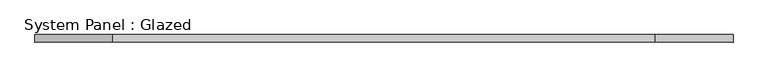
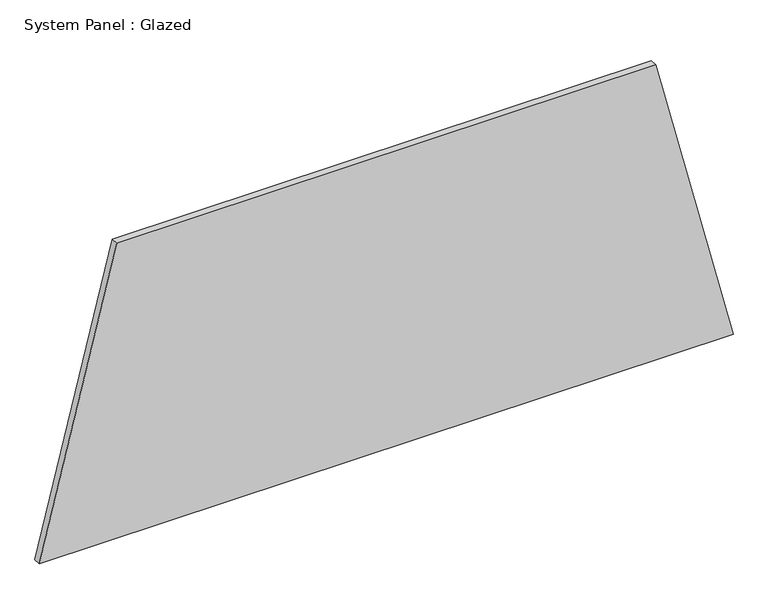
"""IFC4 building model written with IfcOpenShell, lengths in millimetres: plate geometry, System Panel : Glazed."""

import ifcopenshell
import ifcopenshell.guid

model = None  # the IFC model being written
_history = None  # IfcOwnerHistory: only IFC2X3 demands one
_inside = {}  # id of a spatial element -> (the spatial element, [elements in it])
_under = {}  # id of a project, library or spatial element -> (it, [spatial elements below it])
_declared = {}  # id of a project -> (the project, [libraries it declares])
_typed = {}  # id of a type object -> (the type object, [elements of that type])
_made_of = {}  # id of a material, layer set ... -> (it, [elements and type objects made of it])


def new_model(schema):
    """Start an empty IFC model of exactly this schema.

    Asked for "IFC4X3", IfcOpenShell would pick the latest addendum, in which some entities
    have other attributes; the version numbers below select the first issue.
    IFC2X3 requires an IfcOwnerHistory on every rooted entity: one is made here for all.
    """
    global model, _history
    if schema == "IFC4X3":
        model = ifcopenshell.file(schema_version=(4, 3, 0, 0))
    else:
        model = ifcopenshell.file(schema=schema)
    _inside.clear()
    _under.clear()
    _declared.clear()
    _typed.clear()
    _made_of.clear()
    _history = None
    if model.schema == "IFC2X3":
        org = make("IfcOrganization", Name="unknown")
        user = make(
            "IfcPersonAndOrganization",
            ThePerson=make("IfcPerson", FamilyName="unknown"),
            TheOrganization=org,
        )
        app = make(
            "IfcApplication",
            ApplicationDeveloper=org,
            Version="unknown",
            ApplicationFullName="unknown",
            ApplicationIdentifier="unknown",
        )
        _history = make(
            "IfcOwnerHistory",
            OwningUser=user,
            OwningApplication=app,
            ChangeAction="ADDED",
            CreationDate=0,
        )
    return model


def make(cls, **values):
    """One entity of the class cls with the attributes given. An attribute that is None is left unset."""
    return model.create_entity(
        cls, **{name: value for name, value in values.items() if value is not None}
    )


def rooted(cls, **values):
    """An entity with a GlobalId (a new one), such as an element, a storey or a relation."""
    return make(cls, GlobalId=ifcopenshell.guid.new(), OwnerHistory=_history, **values)


def si_unit(unit_type, name, prefix=None):
    """IfcSIUnit, for example si_unit("LENGTHUNIT", "METRE", prefix="MILLI")."""
    return make("IfcSIUnit", UnitType=unit_type, Prefix=prefix, Name=name)


def assignment(units):
    """IfcUnitAssignment: the units of a project."""
    return None if units is None else make("IfcUnitAssignment", Units=units)


def point(xyz):
    """IfcCartesianPoint."""
    return None if xyz is None else make("IfcCartesianPoint", Coordinates=xyz)


def direction(xyz):
    """IfcDirection."""
    return None if xyz is None else make("IfcDirection", DirectionRatios=xyz)


def frame(location, z_axis=None, x_axis=None):
    """IfcAxis2Placement3D, a coordinate frame: its origin and axes. An axis left out is left unset."""
    return make(
        "IfcAxis2Placement3D",
        Location=point(location),
        Axis=direction(z_axis),
        RefDirection=direction(x_axis),
    )


def origin():
    """The frame at (0, 0, 0) with its axes left unset."""
    return frame((0.0, 0.0, 0.0))


def place(relative_to, where):
    """IfcLocalPlacement: puts the frame where relative to a parent placement (None: the world)."""
    return make(
        "IfcLocalPlacement", PlacementRelTo=relative_to, RelativePlacement=where
    )


def context(
    kind, dimensions, precision=None, world=None, true_north=None, identifier=None
):
    """IfcGeometricRepresentationContext, for example the 3D "Model" context."""
    return make(
        "IfcGeometricRepresentationContext",
        ContextIdentifier=identifier,
        ContextType=kind,
        CoordinateSpaceDimension=dimensions,
        Precision=precision,
        WorldCoordinateSystem=world,
        TrueNorth=true_north,
    )


def project(units=None, contexts=None):
    """IfcProject with its units and contexts."""
    return rooted(
        "IfcProject",
        Name="project",
        RepresentationContexts=contexts,
        UnitsInContext=assignment(units),
    )


def spatial(cls, under=None, at=None, **own):
    """A site, building, storey or space (cls), placed at a placement, below another one or the project."""
    s = rooted(cls, ObjectPlacement=at, **own)
    if under is not None:
        _under.setdefault(under.id(), (under, []))[1].append(s)
    return s


def polyline(points):
    """IfcPolyline through the points."""
    return make("IfcPolyline", Points=[point(p) for p in points])


def outline(outer, holes=None, kind="AREA"):
    """IfcArbitraryClosedProfileDef: a profile drawn as a closed curve; with holes, ...WithVoids."""
    if holes is None:
        return make("IfcArbitraryClosedProfileDef", ProfileType=kind, OuterCurve=outer)
    return make(
        "IfcArbitraryProfileDefWithVoids",
        ProfileType=kind,
        OuterCurve=outer,
        InnerCurves=holes,
    )


def extrude(swept, where, along, depth):
    """IfcExtrudedAreaSolid: the profile swept, set in the frame where, extruded along a direction by depth."""
    return make(
        "IfcExtrudedAreaSolid",
        SweptArea=swept,
        Position=where,
        ExtrudedDirection=direction(along),
        Depth=depth,
    )


def shape(context_of_items, identifier, shape_type, items):
    """IfcShapeRepresentation: the items that make up one representation, for example the "Body"."""
    return make(
        "IfcShapeRepresentation",
        ContextOfItems=context_of_items,
        RepresentationIdentifier=identifier,
        RepresentationType=shape_type,
        Items=items,
    )


def source(mapping_origin, context_of_items, identifier, shape_type, items):
    """IfcRepresentationMap: a shape defined once, which mapped items show again and again."""
    return make(
        "IfcRepresentationMap",
        MappingOrigin=mapping_origin,
        MappedRepresentation=shape(context_of_items, identifier, shape_type, items),
    )


def transform(
    local_origin,
    x_axis=None,
    y_axis=None,
    z_axis=None,
    scale=None,
    scale2=None,
    scale3=None,
    uniform=True,
):
    """IfcCartesianTransformationOperator3D, or its non-uniform kind. x_axis, y_axis, z_axis: its Axis1, 2, 3."""
    if uniform:
        return make(
            "IfcCartesianTransformationOperator3D",
            Axis1=direction(x_axis),
            Axis2=direction(y_axis),
            LocalOrigin=point(local_origin),
            Scale=scale,
            Axis3=direction(z_axis),
        )
    return make(
        "IfcCartesianTransformationOperator3DnonUniform",
        Axis1=direction(x_axis),
        Axis2=direction(y_axis),
        LocalOrigin=point(local_origin),
        Scale=scale,
        Axis3=direction(z_axis),
        Scale2=scale2,
        Scale3=scale3,
    )


def mapped(mapping_source, mapping_target):
    """IfcMappedItem: shows the shape of a source again, moved by a transform."""
    return make(
        "IfcMappedItem", MappingSource=mapping_source, MappingTarget=mapping_target
    )


def made_of(thing, what):
    """Note that an element or type object is made of a material, layer set ...; save() writes the relation."""
    if what is not None:
        _made_of.setdefault(what.id(), (what, []))[1].append(thing)
    return thing


def element(
    cls,
    number,
    at=None,
    inside=None,
    cuts=None,
    type_object=None,
    material=None,
    context=None,
    identifier="Body",
    shape_type=None,
    held_by="IfcProductDefinitionShape",
    body=None,
    shapes=None,
    **own,
):
    """One element of the class cls, such as IfcWall. Its Tag is "e" and its number.

    at: its placement. inside: the storey or other place that contains it. cuts: it is an
    opening in that element (IfcRelVoidsElement). A single representation is given by context,
    identifier, shape_type and body (its items); several are given by shapes. held_by: the class
    of the entity that holds the representations. save() writes the other relations.
    """
    e = rooted(cls, Tag="e%d" % number, ObjectPlacement=at, **own)
    if body is not None:
        shapes = [shape(context, identifier, shape_type, body)]
    if shapes is not None:
        e.Representation = make(held_by, Representations=shapes)
    if inside is not None:
        _inside.setdefault(inside.id(), (inside, []))[1].append(e)
    if cuts is not None:
        rooted(
            "IfcRelVoidsElement", RelatingBuildingElement=cuts, RelatedOpeningElement=e
        )
    if type_object is not None:
        _typed.setdefault(type_object.id(), (type_object, []))[1].append(e)
    return made_of(e, material)


def aggregate(whole, parts):
    """IfcRelAggregates: a whole, such as a stair, and the parts it consists of."""
    return rooted("IfcRelAggregates", RelatingObject=whole, RelatedObjects=parts)


def save(model, path):
    """Write the relations noted so far, then the file.

    IfcRelAggregates (storeys below a building ...), IfcRelContainedInSpatialStructure (elements
    in a storey), IfcRelDefinesByType, IfcRelAssociatesMaterial and IfcRelDeclares: one each for
    every whole, place, type object, material and project.
    """
    for whole, parts in _under.values():
        aggregate(whole, parts)
    for where, things in _inside.values():
        rooted(
            "IfcRelContainedInSpatialStructure",
            RelatedElements=things,
            RelatingStructure=where,
        )
    for kind, things in _typed.values():
        rooted("IfcRelDefinesByType", RelatedObjects=things, RelatingType=kind)
    for what, things in _made_of.values():
        rooted("IfcRelAssociatesMaterial", RelatedObjects=things, RelatingMaterial=what)
    for by, libraries in _declared.values():
        rooted("IfcRelDeclares", RelatingContext=by, RelatedDefinitions=libraries)
    model.write(path)


def system_panel_glazed_5a9b0819(model_context):
    return source(origin(), model_context, "Body", "SweptSolid", [
        extrude(outline(polyline([(0.0, -1152.3500512), (0.0, 1152.3500512), (1035.3734654, 895.3208171), (1035.3734654, -895.3208171), (0.0, -1152.3500512)])), frame((0.0, -49.5, 0.0), z_axis=(0.0, 1.0, 0.0), x_axis=(0.0, 0.0, 1.0)), (0.0, 0.0, 1.0), 25.0),
    ])


if __name__ == "__main__":
    model = new_model("IFC4")
    model_context = context("Model", 3, world=origin())
    ifc_project = project(units=[si_unit("LENGTHUNIT", "METRE", prefix="MILLI")], contexts=[model_context])
    site = spatial("IfcSite", under=ifc_project)
    building = spatial("IfcBuilding", under=site)
    placement = place(None, origin())
    system_panel_glazed_shape = system_panel_glazed_5a9b0819(model_context)
    element("IfcPlate", 1, ObjectType="System Panel : Glazed", at=placement, inside=building, context=model_context, shape_type="MappedRepresentation", body=[
        mapped(system_panel_glazed_shape, transform((0.0, 0.0, 0.0), x_axis=(1.0, 0.0, 0.0), y_axis=(0.0, 1.0, 0.0), z_axis=(0.0, 0.0, 1.0))),
    ])
    save(model, "model.ifc")
